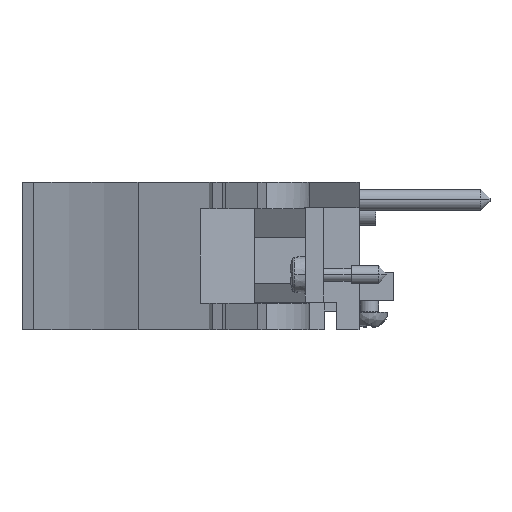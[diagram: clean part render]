
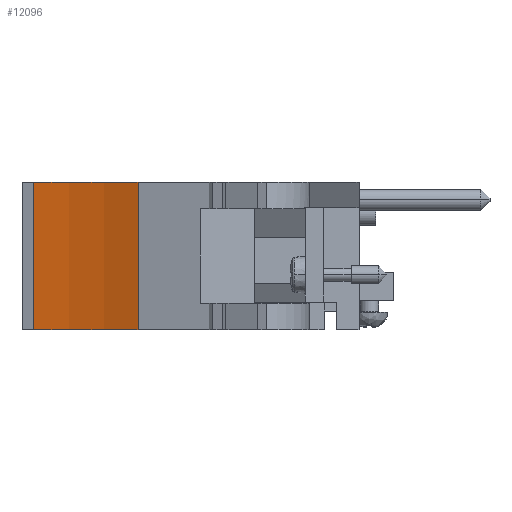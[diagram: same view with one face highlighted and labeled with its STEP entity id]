
A CAD part, front view. The second image highlights one B-rep face of the part: STEP entity #12096.
In plain terms, the highlighted cylindrical face has radius 51.46 mm (diameter 102.919 mm), a partial arc.
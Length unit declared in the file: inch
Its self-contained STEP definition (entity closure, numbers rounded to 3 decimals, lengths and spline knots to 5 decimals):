
#491=CARTESIAN_POINT('',(-1.97633,-5.95079,0.695));
#492=DIRECTION('',(0.,0.,1.));
#493=DIRECTION('',(0.435,0.9,0.));
#494=AXIS2_PLACEMENT_3D('',#491,#492,#493);
#836=CARTESIAN_POINT('',(-1.97633,-5.95079,-0.093));
#837=DIRECTION('',(0.,0.,1.));
#838=DIRECTION('',(0.435,0.9,0.));
#839=AXIS2_PLACEMENT_3D('',#836,#837,#838);
#1054=DIRECTION('',(0.,0.,1.));
#1055=VECTOR('',#1054,0.788);
#1056=CARTESIAN_POINT('',(-1.653,-3.95079,-0.093));
#1057=LINE('',#1056,#1055);
#1062=DIRECTION('',(0.,0.,1.));
#1063=VECTOR('',#1062,0.788);
#1064=CARTESIAN_POINT('',(-1.09503,-4.12655,-0.093));
#1065=LINE('',#1064,#1063);
#8808=CARTESIAN_POINT('',(-1.09503,-4.12655,-0.093));
#8809=CARTESIAN_POINT('',(-1.653,-3.95079,-0.093));
#8810=VERTEX_POINT('',#8808);
#8811=VERTEX_POINT('',#8809);
#8812=CARTESIAN_POINT('',(-1.09503,-4.12655,0.695));
#8813=CARTESIAN_POINT('',(-1.653,-3.95079,0.695));
#8814=VERTEX_POINT('',#8812);
#8815=VERTEX_POINT('',#8813);
#12084=CARTESIAN_POINT('',(-1.97633,-5.95079,0.695));
#12085=DIRECTION('',(0.,0.,1.));
#12086=DIRECTION('',(0.,1.,0.));
#12087=AXIS2_PLACEMENT_3D('',#12084,#12085,#12086);
#12088=CYLINDRICAL_SURFACE('',#12087,2.02597);
#12089=ORIENTED_EDGE('',*,*,#11802,.T.);
#12090=ORIENTED_EDGE('',*,*,#12076,.T.);
#12091=ORIENTED_EDGE('',*,*,#11351,.F.);
#12093=ORIENTED_EDGE('',*,*,#12092,.F.);
#12094=EDGE_LOOP('',(#12089,#12090,#12091,#12093));
#12095=FACE_OUTER_BOUND('',#12094,.F.);
#12096=ADVANCED_FACE('',(#12095),#12088,.F.);
#495=CIRCLE('',#494,2.02597);
#840=CIRCLE('',#839,2.02597);
#11351=EDGE_CURVE('',#8814,#8815,#495,.T.);
#11802=EDGE_CURVE('',#8810,#8811,#840,.T.);
#12076=EDGE_CURVE('',#8811,#8815,#1057,.T.);
#12092=EDGE_CURVE('',#8810,#8814,#1065,.T.);
